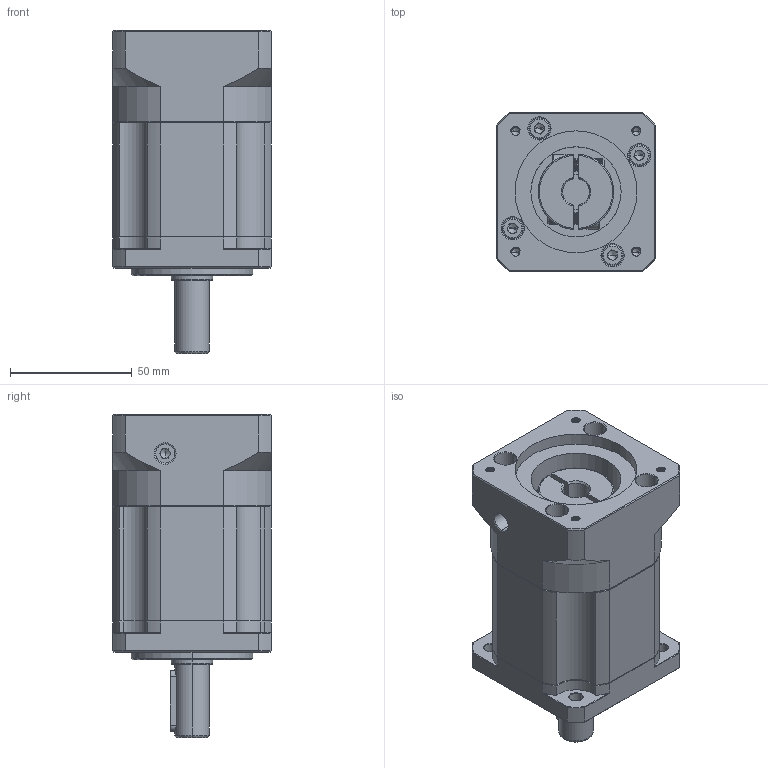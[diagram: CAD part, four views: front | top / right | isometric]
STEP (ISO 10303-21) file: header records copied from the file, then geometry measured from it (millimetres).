
FILE_DESCRIPTION (( 'STEP AP214' ), '1' );
FILE_NAME ('ZB60-D14-L2-11-50-70-M4.STEP', '2022-04-17T07:29:12', ( '' ), ( 'Microsoft' ), 'SwSTEP 2.0', 'SolidWorks 2016', '' );
FILE_SCHEMA (( 'AUTOMOTIVE_DESIGN' ));
Length unit declared in the file: millimetre
Products named in the file (1): ZB60-D14-L2-11-50-70-M4
Bounding box: 65 x 65 x 132.5 mm (x, y, z)
Volume: 329877.1 mm3; surface area: 58507.4 mm2
Topology: 6 solids, 6 shells, 1874 faces, 4977 edges, 3186 vertices
Faces by surface type: plane 879, cylinder 381, bspline 299, cone 279, torus 36
Entity records: 98781 total; most frequent: CARTESIAN_POINT 34016, ORIENTED_EDGE 9894, DIRECTION 8099, EDGE_CURVE 4947, VERTEX_POINT 3186, LINE 3009, VECTOR 3009, AXIS2_PLACEMENT_3D 2545
